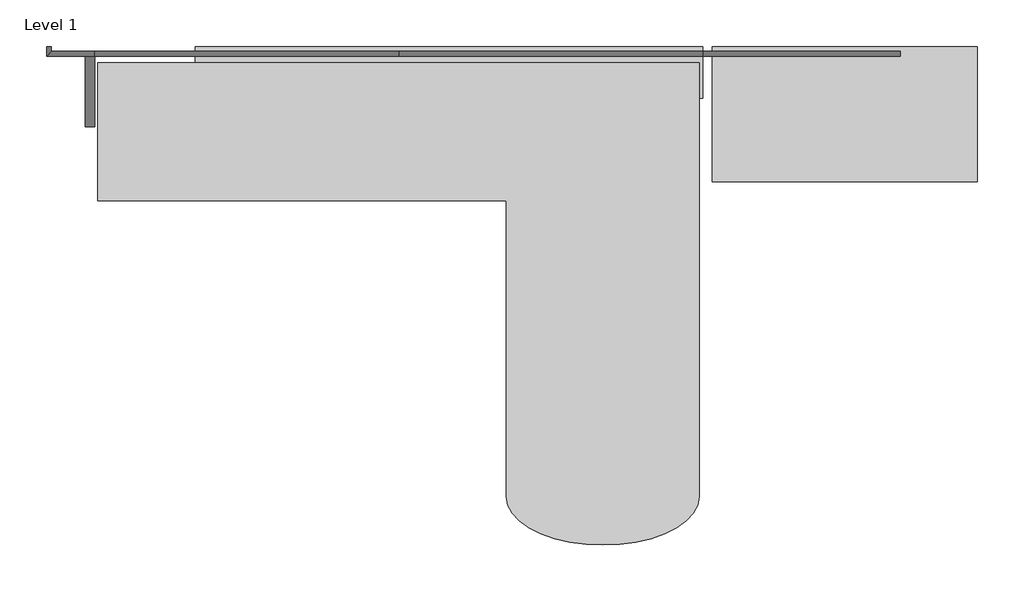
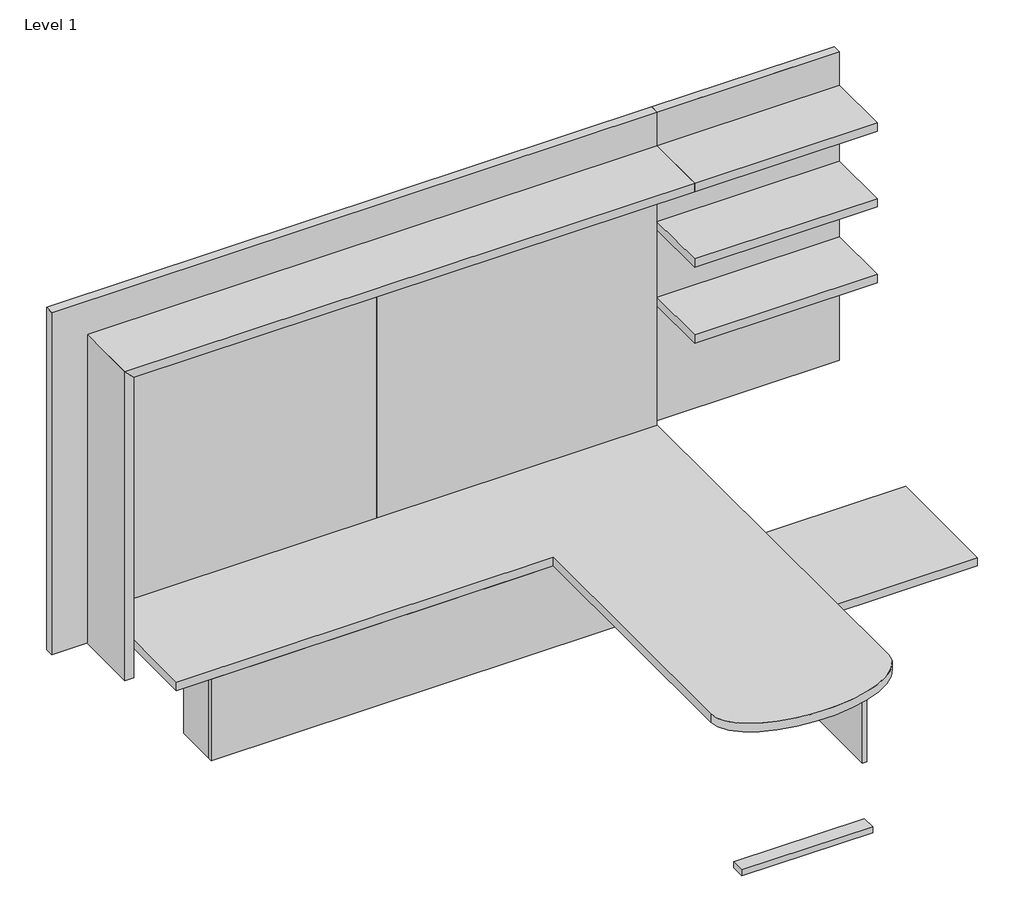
# One storey, incomplete: 13 proxies.
"""IFC4 building model written with IfcOpenShell, lengths in millimetres."""

from ifc_helpers import new_model, si_unit, origin, place, context, project, spatial, transform, mapped, element, save
from components import generic_models_07090b79, generic_models_26597d47, generic_models_824efbd5, generic_models_312f1a2c, generic_models_7a0e2da2, generic_models_7db85d77, generic_models_55264f2c, generic_models_c48ea4ac, generic_models_cf88d30f, generic_models_1fc4233c, generic_models_c44e4d4c

model = new_model("IFC4")

# Units and contexts
model_context = context("Model", 3, world=origin())
ifc_project = project(units=[si_unit("LENGTHUNIT", "METRE", prefix="MILLI")], contexts=[model_context])

# Site, building, storey
site = spatial("IfcSite", under=ifc_project)
building = spatial("IfcBuilding", under=site)
storey = spatial("IfcBuildingStorey", under=building, Name="Level 1", Elevation=0.0)

# Proxies
placement = place(None, origin())
generic_models_shape = generic_models_07090b79(model_context)
element("IfcBuildingElementProxy", 1, Name="LINAK^DL5-DL6 T FOOT (560mm)", ObjectType="LINAK^DL5-DL6 T FOOT (560mm)", at=placement, inside=storey, context=model_context, shape_type="MappedRepresentation", body=[
    mapped(generic_models_shape, transform((-673.7, -1833.0, 1.0924), x_axis=(1.0, 0.0, 0.0), y_axis=(0.0, 1.0, 0.0), z_axis=(0.0, 0.0, 1.0))),
])
generic_models_2_shape = generic_models_26597d47(model_context)
element("IfcBuildingElementProxy", 2, Name="LINAK^DL5-DL6 GLIDE (40mm)", ObjectType="LINAK^DL5-DL6 GLIDE (40mm)", at=placement, inside=storey, context=model_context, shape_type="MappedRepresentation", body=[
    mapped(generic_models_2_shape, transform((-142.2, -1803.0, 0.25), x_axis=(1.0, 0.0, 0.0), y_axis=(0.0, 0.0, 1.0), z_axis=(0.0, -1.0, 0.0))),
])
element("IfcBuildingElementProxy", 3, Name="LINAK^DL5-DL6 GLIDE (40mm)", ObjectType="LINAK^DL5-DL6 GLIDE (40mm)", at=placement, inside=storey, context=model_context, shape_type="MappedRepresentation", body=[
    mapped(generic_models_2_shape, transform((-645.2, -1803.0, 0.25), x_axis=(1.0, 0.0, 0.0), y_axis=(0.0, 0.0, 1.0), z_axis=(0.0, -1.0, 0.0))),
])
generic_models_3_shape = generic_models_824efbd5(model_context)
element("IfcBuildingElementProxy", 4, Name="FOUNDATION^PO 3_WALL HUNG 3 SHELVES-PARTS SOLID", ObjectType="FOUNDATION^PO 3_WALL HUNG 3 SHELVES-PARTS SOLID", at=placement, inside=storey, context=model_context, shape_type="MappedRepresentation", body=[
    mapped(generic_models_3_shape, transform((0.0, -38.1, 736.6), x_axis=(1.0, 0.0, 0.0), y_axis=(0.0, 0.0, 1.0), z_axis=(0.0, -1.0, 0.0))),
])
generic_models_4_shape = generic_models_312f1a2c(model_context)
element("IfcBuildingElementProxy", 5, Name="FOUNDATION^PO3_WIRE WALL-RISING MODESTY", ObjectType="FOUNDATION^PO3_WIRE WALL-RISING MODESTY", at=placement, inside=storey, context=model_context, shape_type="MappedRepresentation", body=[
    mapped(generic_models_4_shape, transform((-184.15, -1879.6, 368.3), x_axis=(1.0, 0.0, 0.0), y_axis=(0.0, 0.0, 1.0), z_axis=(0.0, -1.0, 0.0))),
])
generic_models_5_shape = generic_models_7a0e2da2(model_context)
element("IfcBuildingElementProxy", 6, Name="FOUNDATION^PO3_WIRE WALL-WORKSURFACE", ObjectType="FOUNDATION^PO3_WIRE WALL-WORKSURFACE", at=placement, inside=storey, context=model_context, shape_type="MappedRepresentation", body=[
    mapped(generic_models_5_shape, transform((-2387.6, -1968.5, 698.5), x_axis=(1.0, 0.0, 0.0), y_axis=(0.0, 0.0, 1.0), z_axis=(0.0, -1.0, 0.0))),
])
generic_models_6_shape = generic_models_7db85d77(model_context)
element("IfcBuildingElementProxy", 7, Name="FOUNDATION^PO3_WIRE WALL-PARTS SOLID", ObjectType="FOUNDATION^PO3_WIRE WALL-PARTS SOLID", at=placement, inside=storey, context=model_context, shape_type="MappedRepresentation", body=[
    mapped(generic_models_6_shape, transform((-2003.425, -203.2, 546.1), x_axis=(1.0, 0.0, 0.0), y_axis=(0.0, 0.0, 1.0), z_axis=(0.0, -1.0, 0.0))),
])
generic_models_7_shape = generic_models_55264f2c(model_context)
element("IfcBuildingElementProxy", 8, Name="FOUNDATION^PO 3_WALL HUNG TACKBOARD-PARTS SOLID", ObjectType="FOUNDATION^PO 3_WALL HUNG TACKBOARD-PARTS SOLID", at=placement, inside=storey, context=model_context, shape_type="MappedRepresentation", body=[
    mapped(generic_models_7_shape, transform((-2399.50625, -19.05, 584.99375), x_axis=(1.0, 0.0, 0.0), y_axis=(0.0, 0.0, 1.0), z_axis=(0.0, -1.0, 0.0))),
])
element("IfcBuildingElementProxy", 9, Name="FOUNDATION^PO 3_WALL HUNG TACKBOARD-PARTS SOLID", ObjectType="FOUNDATION^PO 3_WALL HUNG TACKBOARD-PARTS SOLID", at=placement, inside=storey, context=model_context, shape_type="MappedRepresentation", body=[
    mapped(generic_models_7_shape, transform((-1200.15, -19.05, 584.99375), x_axis=(1.0, 0.0, 0.0), y_axis=(0.0, 0.0, 1.0), z_axis=(0.0, -1.0, 0.0))),
])
generic_models_8_shape = generic_models_c48ea4ac(model_context)
element("IfcBuildingElementProxy", 10, Name="FOUNDATION^PO 3_WALL HUNG WORK WALL-PARTS SOLID", ObjectType="FOUNDATION^PO 3_WALL HUNG WORK WALL-PARTS SOLID", at=placement, inside=storey, context=model_context, shape_type="MappedRepresentation", body=[
    mapped(generic_models_8_shape, transform((-2590.8, -38.1, 584.2), x_axis=(1.0, 0.0, 0.0), y_axis=(0.0, 0.0, 1.0), z_axis=(0.0, -1.0, 0.0))),
])
generic_models_9_shape = generic_models_cf88d30f(model_context)
element("IfcBuildingElementProxy", 11, Name="FOUNDATION^PO2_WARDROBE PLINTH-SOLID", ObjectType="FOUNDATION^PO2_WARDROBE PLINTH-SOLID", at=placement, inside=storey, context=model_context, shape_type="MappedRepresentation", body=[
    mapped(generic_models_9_shape, transform((38.1, -533.4, 0.0), x_axis=(1.0, 0.0, 0.0), y_axis=(0.0, 0.0, 1.0), z_axis=(0.0, -1.0, 0.0))),
])
generic_models_10_shape = generic_models_1fc4233c(model_context)
element("IfcBuildingElementProxy", 12, Name="FOUNDATION^PO 3_LIFT TOP-WIRE TROUGH", ObjectType="FOUNDATION^PO 3_LIFT TOP-WIRE TROUGH", at=placement, inside=storey, context=model_context, shape_type="MappedRepresentation", body=[
    mapped(generic_models_10_shape, transform((-1845.3125, -106.13258, 698.5), x_axis=(1.0, 0.0, 0.0), y_axis=(0.0, 0.0, 1.0), z_axis=(0.0, -1.0, 0.0))),
])
generic_models_11_shape = generic_models_c44e4d4c(model_context)
element("IfcBuildingElementProxy", 13, Name="FOUNDATION^PO 3_WALL HUNG WORK WALL SHELF-PARTS SOLID", ObjectType="FOUNDATION^PO 3_WALL HUNG WORK WALL SHELF-PARTS SOLID", at=placement, inside=storey, context=model_context, shape_type="MappedRepresentation", body=[
    mapped(generic_models_11_shape, transform((-2438.4, -38.1, 584.2), x_axis=(1.0, 0.0, 0.0), y_axis=(0.0, 0.0, 1.0), z_axis=(0.0, -1.0, 0.0))),
])

save(model, "model.ifc")
